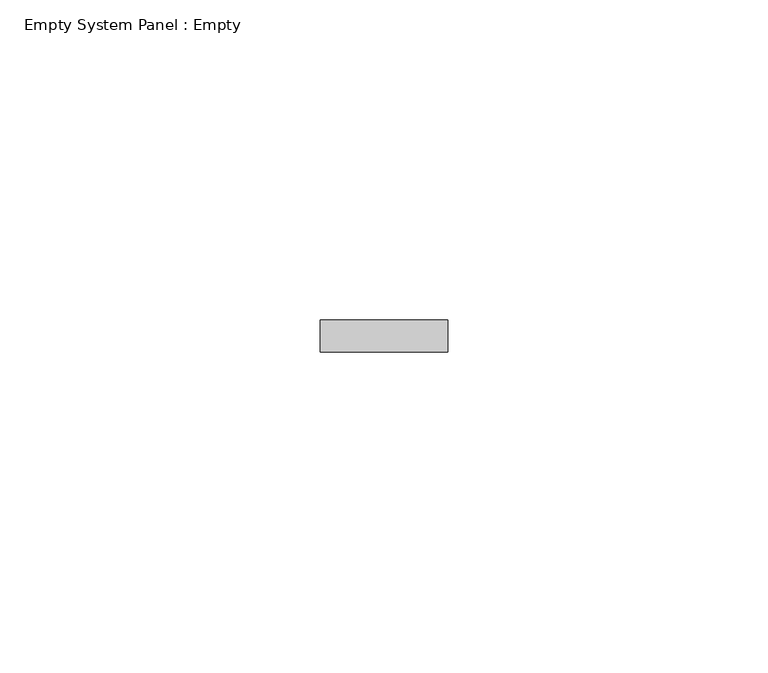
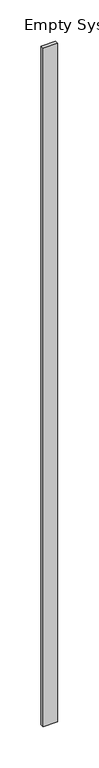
"""IFC4 building model written with IfcOpenShell, lengths in millimetres: plate geometry, Empty System Panel : Empty."""

from ifc_helpers import new_model, si_unit, origin, origin_with_axes, place, context, project, spatial, polyline, outline, extrude, source, transform, mapped, element, save


def empty_system_panel_empty_092e5d7a(model_context):
    return source(origin(), model_context, "Body", "SweptSolid", [
        extrude(outline(polyline([(9.9999998, -102.5), (-9.9999998, -102.5), (-9.9999998, -97.5), (9.9999998, -97.5), (9.9999998, -102.5)])), origin_with_axes(), (0.0, 0.0, 1.0), 1000.0),
    ])


if __name__ == "__main__":
    model = new_model("IFC4")
    model_context = context("Model", 3, world=origin())
    ifc_project = project(units=[si_unit("LENGTHUNIT", "METRE", prefix="MILLI")], contexts=[model_context])
    site = spatial("IfcSite", under=ifc_project)
    building = spatial("IfcBuilding", under=site)
    placement = place(None, origin())
    empty_system_panel_empty_shape = empty_system_panel_empty_092e5d7a(model_context)
    element("IfcPlate", 1, ObjectType="Empty System Panel : Empty", at=placement, inside=building, context=model_context, shape_type="MappedRepresentation", body=[
        mapped(empty_system_panel_empty_shape, transform((0.0, 0.0, 0.0), x_axis=(1.0, 0.0, 0.0), y_axis=(0.0, 1.0, 0.0), z_axis=(0.0, 0.0, 1.0))),
    ])
    save(model, "model.ifc")
